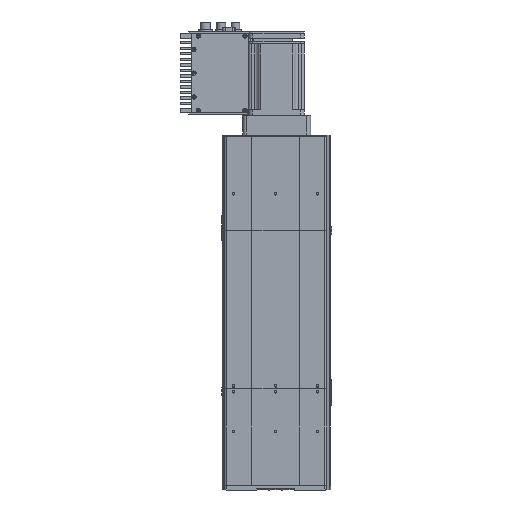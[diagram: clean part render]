
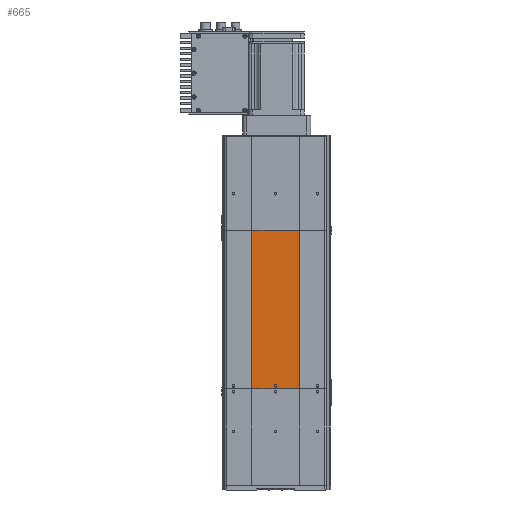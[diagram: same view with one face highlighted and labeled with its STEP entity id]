
A CAD part, front view. The second image highlights one B-rep face of the part: STEP entity #665.
In plain terms, the highlighted planar face has unit normal (-0.034, -0.999, 0) as drawn and (0, -1, 0) by its records, which use the part's own axes.
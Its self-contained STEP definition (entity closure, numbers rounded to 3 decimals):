
#302 = EDGE_CURVE ( 'NONE', #917, #921, #23530, .T. ) ;
#305 = ORIENTED_EDGE ( 'NONE', *, *, #313, .F. ) ;
#313 = EDGE_CURVE ( 'NONE', #4989, #62700, #23573, .T. ) ;
#337 = ORIENTED_EDGE ( 'NONE', *, *, #660, .T. ) ;
#390 = ORIENTED_EDGE ( 'NONE', *, *, #4992, .F. ) ;
#660 = EDGE_CURVE ( 'NONE', #917, #710, #23983, .T. ) ;
#665 = ADVANCED_FACE ( 'NONE', ( #23927, #23926 ), #23954, .F. ) ;
#670 = EDGE_LOOP ( 'NONE', ( #305, #390 ) ) ;
#690 = ORIENTED_EDGE ( 'NONE', *, *, #1577, .T. ) ;
#698 = EDGE_CURVE ( 'NONE', #921, #1251, #23968, .T. ) ;
#710 = VERTEX_POINT ( 'NONE', #23963 ) ;
#786 = ORIENTED_EDGE ( 'NONE', *, *, #698, .F. ) ;
#917 = VERTEX_POINT ( 'NONE', #24036 ) ;
#921 = VERTEX_POINT ( 'NONE', #23964 ) ;
#1183 = EDGE_LOOP ( 'NONE', ( #690, #786, #1743, #337 ) ) ;
#1251 = VERTEX_POINT ( 'NONE', #24074 ) ;
#1577 = EDGE_CURVE ( 'NONE', #710, #1251, #24122, .T. ) ;
#1743 = ORIENTED_EDGE ( 'NONE', *, *, #302, .F. ) ;
#4989 = VERTEX_POINT ( 'NONE', #24715 ) ;
#4992 = EDGE_CURVE ( 'NONE', #62700, #4989, #24722, .T. ) ;
#23524 = CARTESIAN_POINT ( 'NONE',  ( 0., -32.5, 153.7 ) ) ;
#23527 = DIRECTION ( 'NONE',  ( 1., 0., 0. ) ) ;
#23528 = VECTOR ( 'NONE', #23527, 1000. ) ;
#23529 = CARTESIAN_POINT ( 'NONE',  ( -30., -32.5, 350. ) ) ;
#23530 = LINE ( 'NONE', #23529, #23528 ) ;
#23570 = DIRECTION ( 'NONE',  ( 0., 0., -1. ) ) ;
#23571 = DIRECTION ( 'NONE',  ( 0., -1., 0. ) ) ;
#23572 = AXIS2_PLACEMENT_3D ( 'NONE', #23524, #23571, #23570 ) ;
#23573 = CIRCLE ( 'NONE', #23572, 1.6 ) ;
#23925 = CARTESIAN_POINT ( 'NONE',  ( -30., -32.5, 350. ) ) ;
#23926 = FACE_BOUND ( 'NONE', #670, .T. ) ;
#23927 = FACE_OUTER_BOUND ( 'NONE', #1183, .T. ) ;
#23949 = AXIS2_PLACEMENT_3D ( 'NONE', #23925, #23974, #23973 ) ;
#23954 = PLANE ( 'NONE',  #23949 ) ;
#23960 = DIRECTION ( 'NONE',  ( 0., 0., -1. ) ) ;
#23961 = VECTOR ( 'NONE', #23960, 1000. ) ;
#23962 = CARTESIAN_POINT ( 'NONE',  ( 30., -32.5, 350. ) ) ;
#23963 = CARTESIAN_POINT ( 'NONE',  ( -30., -32.5, 150. ) ) ;
#23964 = CARTESIAN_POINT ( 'NONE',  ( 30., -32.5, 350. ) ) ;
#23968 = LINE ( 'NONE', #23962, #23961 ) ;
#23973 = DIRECTION ( 'NONE',  ( 0., 0., 1. ) ) ;
#23974 = DIRECTION ( 'NONE',  ( 0., 1., 0. ) ) ;
#23980 = DIRECTION ( 'NONE',  ( 0., 0., -1. ) ) ;
#23981 = VECTOR ( 'NONE', #23980, 1000. ) ;
#23982 = CARTESIAN_POINT ( 'NONE',  ( -30., -32.5, 350. ) ) ;
#23983 = LINE ( 'NONE', #23982, #23981 ) ;
#24036 = CARTESIAN_POINT ( 'NONE',  ( -30., -32.5, 350. ) ) ;
#24074 = CARTESIAN_POINT ( 'NONE',  ( 30., -32.5, 150. ) ) ;
#24106 = DIRECTION ( 'NONE',  ( 1., 0., 0. ) ) ;
#24107 = VECTOR ( 'NONE', #24106, 1000. ) ;
#24121 = CARTESIAN_POINT ( 'NONE',  ( -30., -32.5, 150. ) ) ;
#24122 = LINE ( 'NONE', #24121, #24107 ) ;
#24710 = AXIS2_PLACEMENT_3D ( 'NONE', #24768, #24767, #24766 ) ;
#24715 = CARTESIAN_POINT ( 'NONE',  ( 0., -32.5, 152.1 ) ) ;
#24722 = CIRCLE ( 'NONE', #24710, 1.6 ) ;
#24766 = DIRECTION ( 'NONE',  ( 0., 0., -1. ) ) ;
#24767 = DIRECTION ( 'NONE',  ( 0., -1., 0. ) ) ;
#24768 = CARTESIAN_POINT ( 'NONE',  ( 0., -32.5, 153.7 ) ) ;
#55353 = CARTESIAN_POINT ( 'NONE',  ( 0., -32.5, 155.3 ) ) ;
#62700 = VERTEX_POINT ( 'NONE', #55353 ) ;
